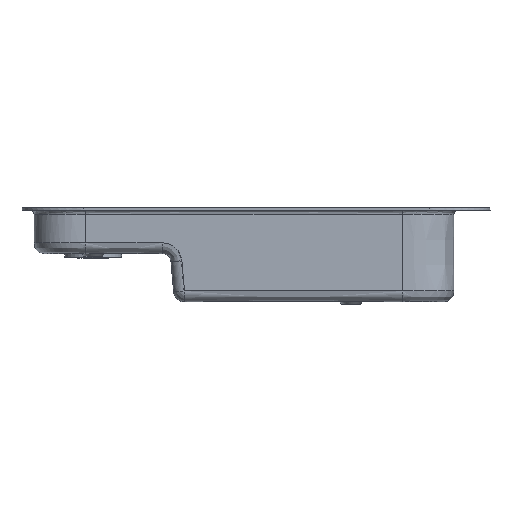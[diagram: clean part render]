
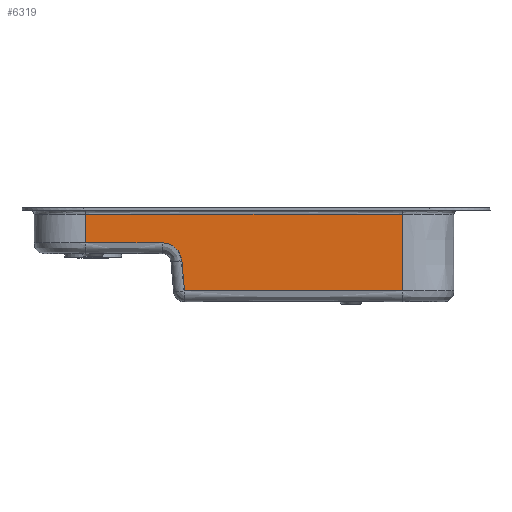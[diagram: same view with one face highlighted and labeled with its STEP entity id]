
A CAD part, front view. The second image highlights one B-rep face of the part: STEP entity #6319.
In plain terms, the highlighted planar face has unit normal (0, -1, 0).
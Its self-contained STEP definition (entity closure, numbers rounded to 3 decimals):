
#491=B_SPLINE_CURVE_WITH_KNOTS('',3,(#16928,#16929,#16930,#16931,#16932,
#16933,#16934,#16935,#16936,#16937,#16938,#16939,#16940),.UNSPECIFIED.,
 .F.,.F.,(4,3,3,3,4),(0.,0.25,0.5,0.75,1.),.UNSPECIFIED.);
#1047=LINE('',#16942,#1480);
#1048=LINE('',#16944,#1481);
#1049=LINE('',#16946,#1482);
#1050=LINE('',#16948,#1483);
#1051=LINE('',#16950,#1484);
#1052=LINE('',#16951,#1485);
#1480=VECTOR('',#7610,10.);
#1481=VECTOR('',#7611,10.);
#1482=VECTOR('',#7612,10.);
#1483=VECTOR('',#7613,10.);
#1484=VECTOR('',#7614,10.);
#1485=VECTOR('',#7615,10.);
#1810=FACE_OUTER_BOUND('',#2237,.T.);
#2237=EDGE_LOOP('',(#5245,#5246,#5247,#5248,#5249,#5250,#5251));
#2924=VERTEX_POINT('',#16926);
#2925=VERTEX_POINT('',#16927);
#2926=VERTEX_POINT('',#16941);
#2927=VERTEX_POINT('',#16943);
#2928=VERTEX_POINT('',#16945);
#2929=VERTEX_POINT('',#16947);
#2930=VERTEX_POINT('',#16949);
#3714=EDGE_CURVE('',#2924,#2925,#491,.T.);
#3715=EDGE_CURVE('',#2925,#2926,#1047,.T.);
#3716=EDGE_CURVE('',#2926,#2927,#1048,.T.);
#3717=EDGE_CURVE('',#2927,#2928,#1049,.T.);
#3718=EDGE_CURVE('',#2928,#2929,#1050,.T.);
#3719=EDGE_CURVE('',#2929,#2930,#1051,.T.);
#3720=EDGE_CURVE('',#2930,#2924,#1052,.T.);
#5245=ORIENTED_EDGE('',*,*,#3714,.T.);
#5246=ORIENTED_EDGE('',*,*,#3715,.T.);
#5247=ORIENTED_EDGE('',*,*,#3716,.T.);
#5248=ORIENTED_EDGE('',*,*,#3717,.T.);
#5249=ORIENTED_EDGE('',*,*,#3718,.T.);
#5250=ORIENTED_EDGE('',*,*,#3719,.T.);
#5251=ORIENTED_EDGE('',*,*,#3720,.T.);
#5679=PLANE('',#6666);
#6319=ADVANCED_FACE('',(#1810),#5679,.F.);
#6666=AXIS2_PLACEMENT_3D('',#16925,#7608,#7609);
#7608=DIRECTION('center_axis',(0.,1.,0.));
#7609=DIRECTION('ref_axis',(0.,0.,1.));
#7610=DIRECTION('',(0.085,0.,-0.996));
#7611=DIRECTION('',(1.,0.,0.));
#7612=DIRECTION('',(0.,0.,1.));
#7613=DIRECTION('',(-1.,0.,0.));
#7614=DIRECTION('',(0.,0.,-1.));
#7615=DIRECTION('',(1.,0.,0.));
#16925=CARTESIAN_POINT('Origin',(-0.638,-105.589,21.195));
#16926=CARTESIAN_POINT('',(-38.008,-105.589,5.985));
#16927=CARTESIAN_POINT('',(-29.041,-105.589,-2.249));
#16928=CARTESIAN_POINT('Ctrl Pts',(-38.008,-105.589,
5.985));
#16929=CARTESIAN_POINT('Ctrl Pts',(-36.893,-105.589,
5.985));
#16930=CARTESIAN_POINT('Ctrl Pts',(-35.774,-105.589,
5.775));
#16931=CARTESIAN_POINT('Ctrl Pts',(-34.743,-105.589,
5.373));
#16932=CARTESIAN_POINT('Ctrl Pts',(-33.712,-105.589,
4.972));
#16933=CARTESIAN_POINT('Ctrl Pts',(-32.738,-105.589,
4.365));
#16934=CARTESIAN_POINT('Ctrl Pts',(-31.921,-105.589,
3.614));
#16935=CARTESIAN_POINT('Ctrl Pts',(-31.104,-105.589,
2.864));
#16936=CARTESIAN_POINT('Ctrl Pts',(-30.416,-105.589,
1.946));
#16937=CARTESIAN_POINT('Ctrl Pts',(-29.928,-105.589,
0.953));
#16938=CARTESIAN_POINT('Ctrl Pts',(-29.44,-105.589,
-0.04));
#16939=CARTESIAN_POINT('Ctrl Pts',(-29.136,-105.589,
-1.137));
#16940=CARTESIAN_POINT('Ctrl Pts',(-29.041,-105.589,
-2.249));
#16941=CARTESIAN_POINT('',(-27.864,-105.589,-16.015));
#16942=CARTESIAN_POINT('',(-29.041,-105.589,-2.249));
#16943=CARTESIAN_POINT('',(71.824,-105.589,-16.015));
#16944=CARTESIAN_POINT('',(-27.864,-105.589,-16.015));
#16945=CARTESIAN_POINT('',(71.824,-105.589,18.985));
#16946=CARTESIAN_POINT('',(71.824,-105.589,-16.015));
#16947=CARTESIAN_POINT('',(-73.099,-105.589,18.985));
#16948=CARTESIAN_POINT('',(71.824,-105.589,18.985));
#16949=CARTESIAN_POINT('',(-73.099,-105.589,5.985));
#16950=CARTESIAN_POINT('',(-73.099,-105.589,18.985));
#16951=CARTESIAN_POINT('',(-73.099,-105.589,5.985));
